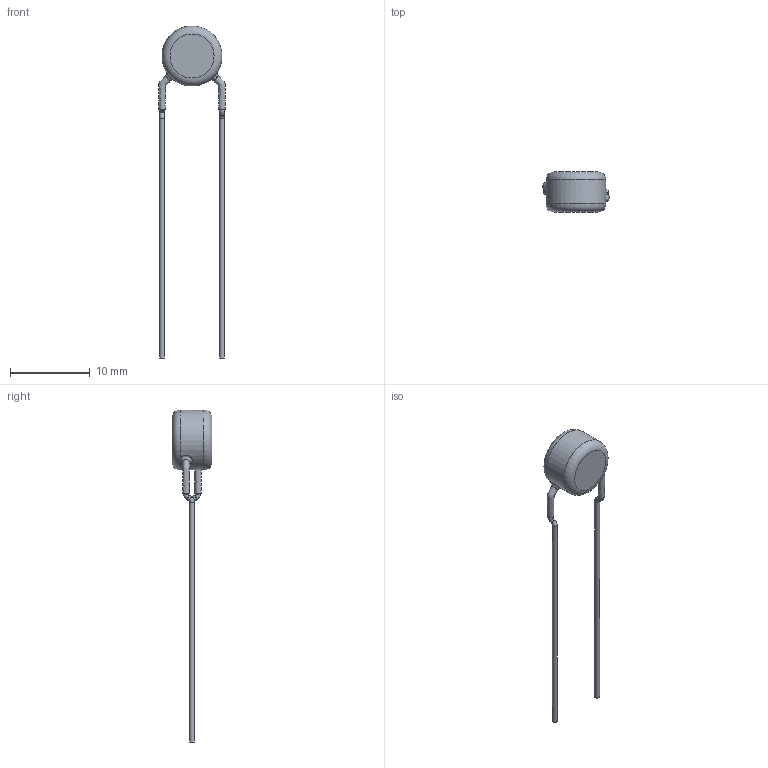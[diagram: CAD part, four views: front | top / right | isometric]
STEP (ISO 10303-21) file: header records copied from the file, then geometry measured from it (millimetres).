
FILE_DESCRIPTION(/* description */ (''),/* implementation_level */ '2;1');
FILE_NAME(/* name */ 'I:\Marketing\M6t1\3D-Models\Zchng-Werk-3\Upload for homepage\BCC\AY2\Inline Dia 0,6 LS 7,5\AY2100K29U2JS63V7.stp',/* time_stamp */ '2020-11-05T15:34:34+01:00',/* author */ ('truediger'),/* organization */ (''),/* preprocessor_version */ 'ST-DEVELOPER v18',/* originating_system */ 'Autodesk Inventor 2020',/* authorisation */ '');
FILE_SCHEMA (('AUTOMOTIVE_DESIGN { 1 0 10303 214 3 1 1 }'));
Length unit declared in the file: millimetre
Products named in the file (1): Bauteil7
Bounding box: 8.35 x 5 x 41.5 mm (x, y, z)
Volume: 234.6 mm3; surface area: 326.9 mm2
Topology: 1 solids, 1 shells, 29 faces, 73 edges, 48 vertices
Faces by surface type: cylinder 9, bspline 8, torus 6, plane 6
Full cylindrical faces by diameter (mm): 0.6 x4, 7.5 x1
Entity records: 2372 total; most frequent: CARTESIAN_POINT 1631, ORIENTED_EDGE 146, DIRECTION 141, EDGE_CURVE 73, AXIS2_PLACEMENT_3D 68, VERTEX_POINT 48, CIRCLE 44, EDGE_LOOP 31
